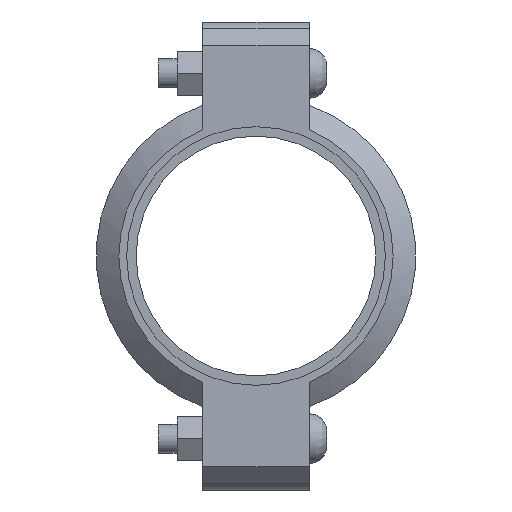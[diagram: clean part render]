
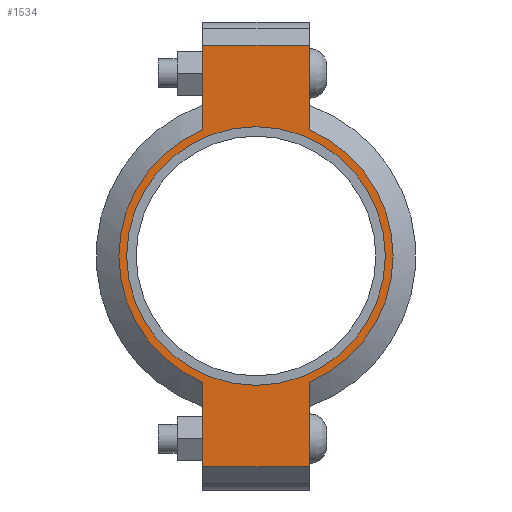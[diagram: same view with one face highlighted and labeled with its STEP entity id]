
A CAD part, left-side view. The second image highlights one B-rep face of the part: STEP entity #1534.
In plain terms, the highlighted planar face has unit normal (-1, 0, 0) as drawn and (0, 0, 1) by its records, which use the part's own axes.
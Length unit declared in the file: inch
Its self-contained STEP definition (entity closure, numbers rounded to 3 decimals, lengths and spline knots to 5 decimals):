
#158=LINE('',#2677,#251);
#166=LINE('',#2713,#259);
#173=LINE('',#2734,#266);
#182=LINE('',#2766,#275);
#183=LINE('',#2770,#276);
#184=LINE('',#2772,#277);
#251=VECTOR('',#2185,0.3937);
#259=VECTOR('',#2201,0.3937);
#266=VECTOR('',#2220,0.3937);
#275=VECTOR('',#2245,0.3937);
#276=VECTOR('',#2250,0.3937);
#277=VECTOR('',#2251,0.3937);
#333=FACE_BOUND('',#511,.T.);
#405=FACE_OUTER_BOUND('',#510,.T.);
#510=EDGE_LOOP('',(#1275,#1276,#1277,#1278,#1279,#1280,#1281,#1282));
#511=EDGE_LOOP('',(#1283));
#583=CIRCLE('',#1753,2.7815);
#609=CIRCLE('',#1812,2.95);
#610=CIRCLE('',#1813,2.95);
#675=VERTEX_POINT('',#2493);
#718=VERTEX_POINT('',#2674);
#719=VERTEX_POINT('',#2676);
#730=VERTEX_POINT('',#2708);
#731=VERTEX_POINT('',#2712);
#738=VERTEX_POINT('',#2731);
#739=VERTEX_POINT('',#2733);
#749=VERTEX_POINT('',#2769);
#750=VERTEX_POINT('',#2771);
#831=EDGE_CURVE('',#675,#675,#583,.T.);
#892=EDGE_CURVE('',#719,#718,#158,.T.);
#906=EDGE_CURVE('',#731,#730,#166,.T.);
#916=EDGE_CURVE('',#739,#738,#173,.T.);
#931=EDGE_CURVE('',#731,#718,#182,.T.);
#932=EDGE_CURVE('',#730,#739,#609,.T.);
#933=EDGE_CURVE('',#749,#738,#183,.T.);
#934=EDGE_CURVE('',#749,#750,#184,.T.);
#935=EDGE_CURVE('',#750,#719,#610,.T.);
#1275=ORIENTED_EDGE('',*,*,#931,.F.);
#1276=ORIENTED_EDGE('',*,*,#906,.T.);
#1277=ORIENTED_EDGE('',*,*,#932,.T.);
#1278=ORIENTED_EDGE('',*,*,#916,.T.);
#1279=ORIENTED_EDGE('',*,*,#933,.F.);
#1280=ORIENTED_EDGE('',*,*,#934,.T.);
#1281=ORIENTED_EDGE('',*,*,#935,.T.);
#1282=ORIENTED_EDGE('',*,*,#892,.T.);
#1283=ORIENTED_EDGE('',*,*,#831,.T.);
#1376=PLANE('',#1811);
#1534=ADVANCED_FACE('',(#405,#333),#1376,.T.);
#1753=AXIS2_PLACEMENT_3D('',#2495,#2061,#2062);
#1811=AXIS2_PLACEMENT_3D('',#2767,#2246,#2247);
#1812=AXIS2_PLACEMENT_3D('',#2768,#2248,#2249);
#1813=AXIS2_PLACEMENT_3D('',#2773,#2252,#2253);
#2061=DIRECTION('center_axis',(0.,0.,-1.));
#2062=DIRECTION('ref_axis',(-1.,0.,0.));
#2185=DIRECTION('',(-1.,0.,0.));
#2201=DIRECTION('',(1.,0.,0.));
#2220=DIRECTION('',(1.,0.,0.));
#2245=DIRECTION('',(0.,1.,0.));
#2246=DIRECTION('center_axis',(0.,0.,1.));
#2247=DIRECTION('ref_axis',(1.,0.,0.));
#2248=DIRECTION('center_axis',(0.,0.,1.));
#2249=DIRECTION('ref_axis',(-1.,0.,0.));
#2250=DIRECTION('',(0.,-1.,0.));
#2251=DIRECTION('',(-1.,0.,0.));
#2252=DIRECTION('center_axis',(0.,0.,1.));
#2253=DIRECTION('ref_axis',(-1.,0.,0.));
#2493=CARTESIAN_POINT('',(2.7815,0.,1.065));
#2495=CARTESIAN_POINT('Origin',(0.,0.,1.065));
#2674=CARTESIAN_POINT('',(-4.535,1.15,1.065));
#2676=CARTESIAN_POINT('',(-2.71662,1.15,1.065));
#2677=CARTESIAN_POINT('',(-5.035,1.15,1.065));
#2708=CARTESIAN_POINT('',(-2.71662,-1.15,1.065));
#2712=CARTESIAN_POINT('',(-4.535,-1.15,1.065));
#2713=CARTESIAN_POINT('',(5.035,-1.15,1.065));
#2731=CARTESIAN_POINT('',(4.535,-1.15,1.065));
#2733=CARTESIAN_POINT('',(2.71662,-1.15,1.065));
#2734=CARTESIAN_POINT('',(5.035,-1.15,1.065));
#2766=CARTESIAN_POINT('',(-4.535,0.575,1.065));
#2767=CARTESIAN_POINT('Origin',(0.,0.,1.065));
#2768=CARTESIAN_POINT('Origin',(0.,0.,1.065));
#2769=CARTESIAN_POINT('',(4.535,1.15,1.065));
#2770=CARTESIAN_POINT('',(4.535,-0.575,1.065));
#2771=CARTESIAN_POINT('',(2.71662,1.15,1.065));
#2772=CARTESIAN_POINT('',(-5.035,1.15,1.065));
#2773=CARTESIAN_POINT('Origin',(0.,0.,1.065));
